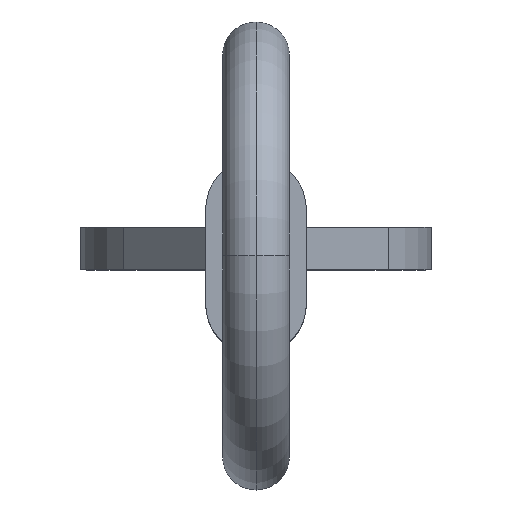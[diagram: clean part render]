
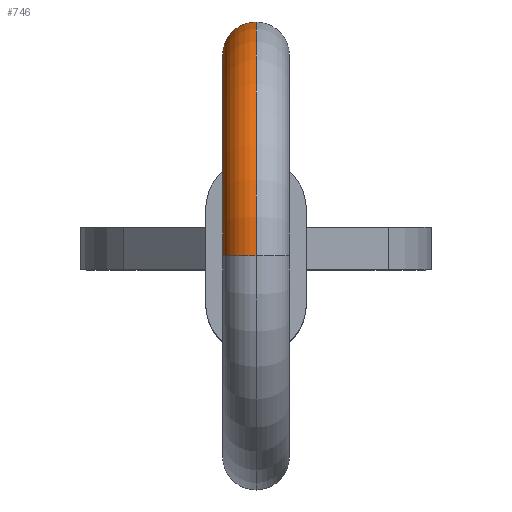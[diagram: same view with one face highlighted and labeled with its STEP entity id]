
A CAD part, top view. The second image highlights one B-rep face of the part: STEP entity #746.
In plain terms, the highlighted toroidal (fillet/blend) face has major radius 4.8 mm and minor radius 0.795 mm.
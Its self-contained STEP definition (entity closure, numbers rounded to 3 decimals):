
#2 = CARTESIAN_POINT ( 'NONE',  ( 0., 2.445, 134.2 ) ) ;
#4 = AXIS2_PLACEMENT_3D ( 'NONE', #114, #263, #624 ) ;
#56 = ORIENTED_EDGE ( 'NONE', *, *, #763, .T. ) ;
#58 = DIRECTION ( 'NONE',  ( -1., 0., 0. ) ) ;
#69 = EDGE_CURVE ( 'NONE', #202, #289, #171, .T. ) ;
#77 = CIRCLE ( 'NONE', #702, 5.595 ) ;
#105 = CARTESIAN_POINT ( 'NONE',  ( 0., -1.133, 137.4 ) ) ;
#114 = CARTESIAN_POINT ( 'NONE',  ( 0., -1.133, 142.2 ) ) ;
#123 = AXIS2_PLACEMENT_3D ( 'NONE', #354, #58, #810 ) ;
#127 = EDGE_CURVE ( 'NONE', #202, #668, #77, .T. ) ;
#146 = DIRECTION ( 'NONE',  ( 0., 0.667, 0.745 ) ) ;
#171 = CIRCLE ( 'NONE', #4, 0.795 ) ;
#202 = VERTEX_POINT ( 'NONE', #532 ) ;
#215 = AXIS2_PLACEMENT_3D ( 'NONE', #105, #909, #606 ) ;
#218 = DIRECTION ( 'NONE',  ( 1., 0., 0. ) ) ;
#225 = FACE_OUTER_BOUND ( 'NONE', #428, .T. ) ;
#263 = DIRECTION ( 'NONE',  ( 0., -1., 0. ) ) ;
#268 = EDGE_CURVE ( 'NONE', #289, #442, #552, .T. ) ;
#271 = ORIENTED_EDGE ( 'NONE', *, *, #127, .T. ) ;
#289 = VERTEX_POINT ( 'NONE', #470 ) ;
#354 = CARTESIAN_POINT ( 'NONE',  ( 0., -1.133, 137.4 ) ) ;
#391 = AXIS2_PLACEMENT_3D ( 'NONE', #2, #146, #218 ) ;
#428 = EDGE_LOOP ( 'NONE', ( #571, #271, #56, #592 ) ) ;
#442 = VERTEX_POINT ( 'NONE', #670 ) ;
#470 = CARTESIAN_POINT ( 'NONE',  ( 0., -1.133, 141.405 ) ) ;
#532 = CARTESIAN_POINT ( 'NONE',  ( 0., -1.133, 142.995 ) ) ;
#552 = CIRCLE ( 'NONE', #215, 4.005 ) ;
#567 = CARTESIAN_POINT ( 'NONE',  ( 0., 3.037, 133.67 ) ) ;
#571 = ORIENTED_EDGE ( 'NONE', *, *, #69, .F. ) ;
#592 = ORIENTED_EDGE ( 'NONE', *, *, #268, .F. ) ;
#606 = DIRECTION ( 'NONE',  ( 0., 0., 1. ) ) ;
#620 = DIRECTION ( 'NONE',  ( -1., 0., 0. ) ) ;
#624 = DIRECTION ( 'NONE',  ( 0., 0., -1. ) ) ;
#664 = CIRCLE ( 'NONE', #391, 0.795 ) ;
#668 = VERTEX_POINT ( 'NONE', #567 ) ;
#670 = CARTESIAN_POINT ( 'NONE',  ( 0., 1.852, 134.73 ) ) ;
#702 = AXIS2_PLACEMENT_3D ( 'NONE', #855, #620, #781 ) ;
#746 = ADVANCED_FACE ( 'NONE', ( #225 ), #900, .T. ) ;
#763 = EDGE_CURVE ( 'NONE', #668, #442, #664, .T. ) ;
#781 = DIRECTION ( 'NONE',  ( 0., 0., 1. ) ) ;
#810 = DIRECTION ( 'NONE',  ( 0., 0., 1. ) ) ;
#855 = CARTESIAN_POINT ( 'NONE',  ( 0., -1.133, 137.4 ) ) ;
#900 = TOROIDAL_SURFACE ( 'NONE', #123, 4.8, 0.795 ) ;
#909 = DIRECTION ( 'NONE',  ( -1., 0., 0. ) ) ;
